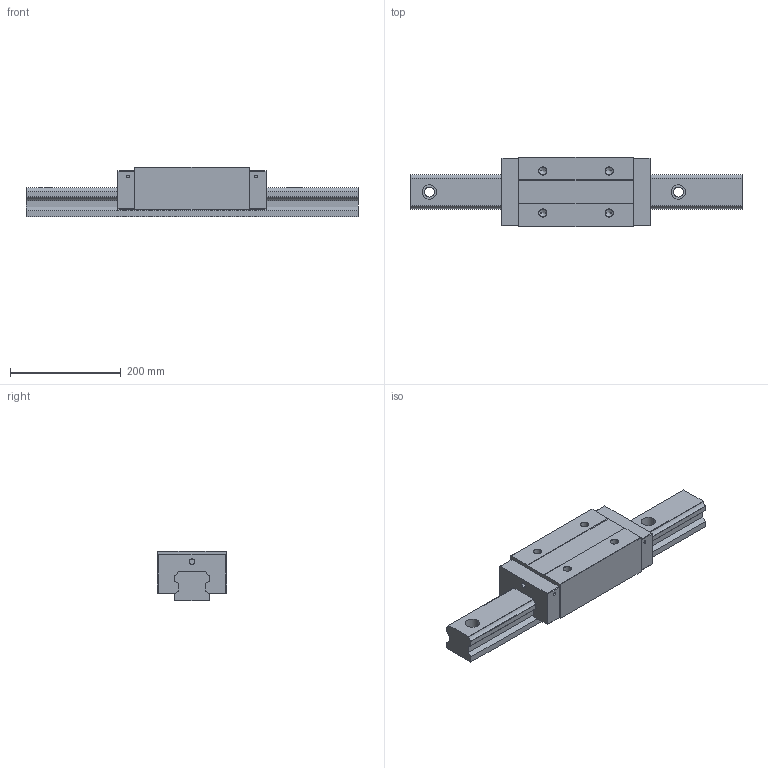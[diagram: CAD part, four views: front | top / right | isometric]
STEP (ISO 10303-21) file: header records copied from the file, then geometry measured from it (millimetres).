
FILE_DESCRIPTION (( 'STEP AP203' ), '1' );
FILE_NAME ('TRH65VE-ZN.STEP', '2024-05-21T00:58:36', ( '' ), ( '' ), 'SwSTEP 2.0', 'SolidWorks 2022', '' );
FILE_SCHEMA (( 'CONFIG_CONTROL_DESIGN' ));
Length unit declared in the file: millimetre
Products named in the file (1): TRH65VE-ZN
Bounding box: 600 x 126 x 90 mm (x, y, z)
Volume: 3605342.2 mm3; surface area: 311694.1 mm2
Topology: 2 solids, 2 shells, 170 faces, 448 edges, 288 vertices
Faces by surface type: plane 82, cylinder 72, cone 16
Entity records: 5299 total; most frequent: DIRECTION 934, CARTESIAN_POINT 899, ORIENTED_EDGE 880, EDGE_CURVE 440, AXIS2_PLACEMENT_3D 323, LINE 288, VECTOR 288, VERTEX_POINT 288
